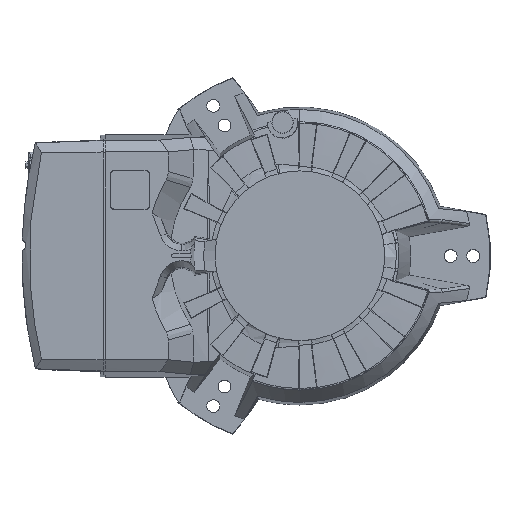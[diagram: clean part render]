
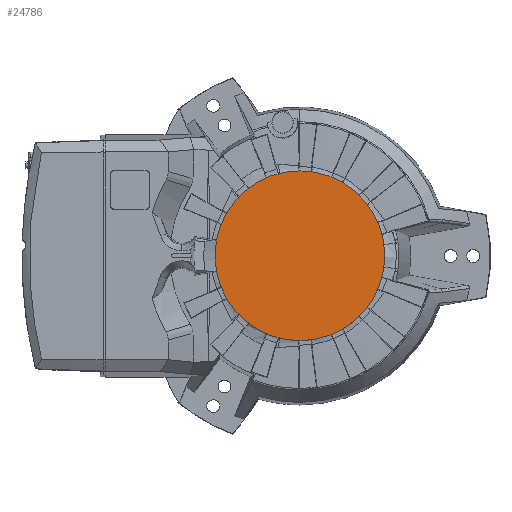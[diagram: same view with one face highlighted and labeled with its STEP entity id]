
A CAD part, top view. The second image highlights one B-rep face of the part: STEP entity #24786.
In plain terms, the highlighted planar face has unit normal (0, 0, 1).
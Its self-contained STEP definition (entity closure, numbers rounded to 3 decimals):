
#1751 = DIRECTION ( 'NONE',  ( 0.862, 0.508, 0. ) ) ;
#1752 = DIRECTION ( 'NONE',  ( 0., 0., -1. ) ) ;
#1753 = CARTESIAN_POINT ( 'NONE',  ( 0., 0., 230. ) ) ;
#1754 = AXIS2_PLACEMENT_3D ( 'NONE', #1753, #1752, #1751 ) ;
#1755 = CIRCLE ( 'NONE', #1754, 122.5 ) ;
#1763 = CIRCLE ( 'NONE', #1809, 122.5 ) ;
#1804 = CARTESIAN_POINT ( 'NONE',  ( 0., -122.5, 230. ) ) ;
#1805 = CARTESIAN_POINT ( 'NONE',  ( 0., 122.5, 230. ) ) ;
#1806 = DIRECTION ( 'NONE',  ( 0.862, 0.508, 0. ) ) ;
#1807 = DIRECTION ( 'NONE',  ( 0., 0., -1. ) ) ;
#1808 = CARTESIAN_POINT ( 'NONE',  ( 0., 0., 230. ) ) ;
#1809 = AXIS2_PLACEMENT_3D ( 'NONE', #1808, #1807, #1806 ) ;
#1902 = FACE_OUTER_BOUND ( 'NONE', #24899, .T. ) ;
#1994 = DIRECTION ( 'NONE',  ( 0., -1., 0. ) ) ;
#1995 = DIRECTION ( 'NONE',  ( 0., 0., 1. ) ) ;
#1996 = CARTESIAN_POINT ( 'NONE',  ( 0., 0., 230. ) ) ;
#1997 = AXIS2_PLACEMENT_3D ( 'NONE', #1996, #1995, #1994 ) ;
#1998 = PLANE ( 'NONE',  #1997 ) ;
#24741 = EDGE_CURVE ( 'NONE', #24752, #24751, #1755, .T. ) ;
#24750 = EDGE_CURVE ( 'NONE', #24751, #24752, #1763, .T. ) ;
#24751 = VERTEX_POINT ( 'NONE', #1805 ) ;
#24752 = VERTEX_POINT ( 'NONE', #1804 ) ;
#24786 = ADVANCED_FACE ( 'NONE', ( #1902 ), #1998, .T. ) ;
#24899 = EDGE_LOOP ( 'NONE', ( #24900, #24902 ) ) ;
#24900 = ORIENTED_EDGE ( 'NONE', *, *, #24750, .F. ) ;
#24902 = ORIENTED_EDGE ( 'NONE', *, *, #24741, .F. ) ;
